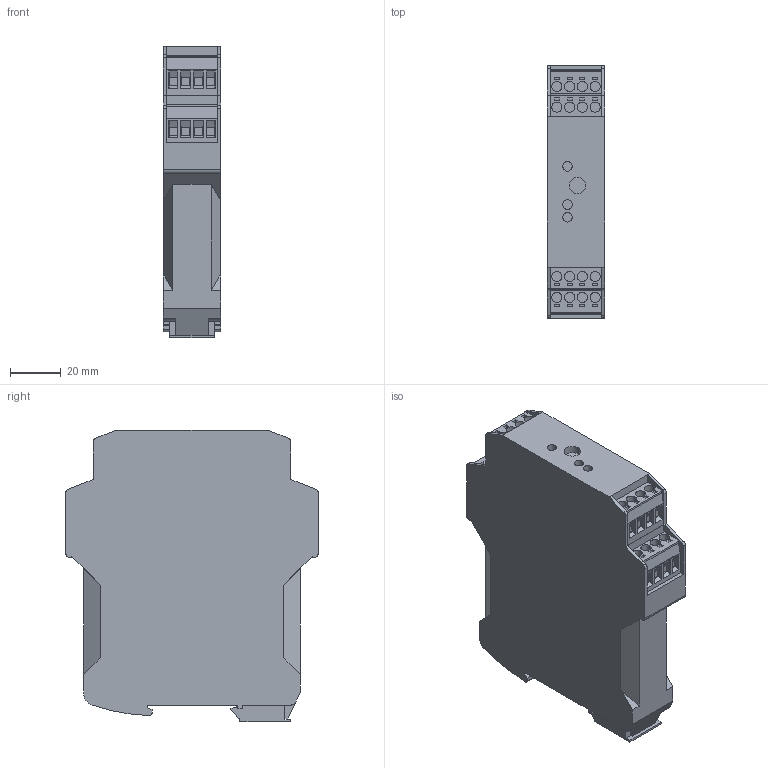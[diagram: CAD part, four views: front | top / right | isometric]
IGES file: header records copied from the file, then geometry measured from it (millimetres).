
Start section: Data from XPlus IGES,  Spatial Corp. Copyright (c) 1999-2004
Global section: file name: 118706.igs; native system:  By Spatial Corp.; preprocessor: XPlus ACIS/IGES 3.0; author: Noname; organization: Noname; date: 20110408.221938; units: millimetre
Bounding box: 22.5 x 99 x 114.5 mm (x, y, z)
Surface area: 30104 mm2 (no closed solid volume)
Topology: 0 solids, 0 shells, 380 faces, 1924 edges, 1924 vertices
Faces by surface type: extrusion 325, revolution 55
